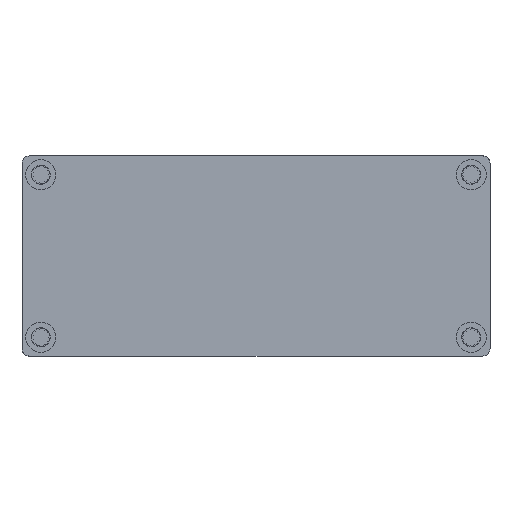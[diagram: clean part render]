
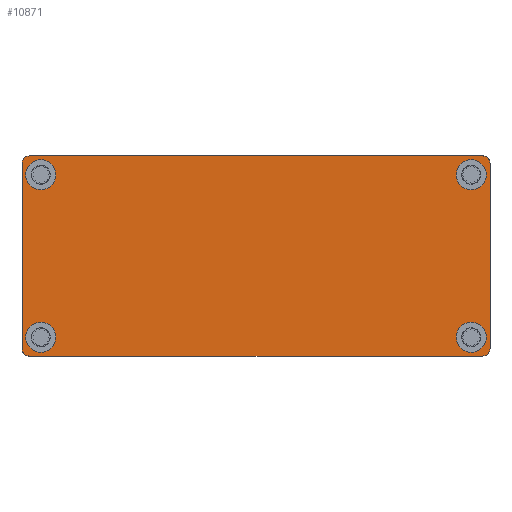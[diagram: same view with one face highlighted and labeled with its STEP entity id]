
A CAD part, front view. The second image highlights one B-rep face of the part: STEP entity #10871.
In plain terms, the highlighted planar face has unit normal (0, -1, 0).
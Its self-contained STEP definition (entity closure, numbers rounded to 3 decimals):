
#4 = VERTEX_POINT ( 'NONE', #8375 ) ;
#102 = EDGE_CURVE ( 'NONE', #8661, #5659, #294, .T. ) ;
#115 = VECTOR ( 'NONE', #4936, 1000. ) ;
#129 = DIRECTION ( 'NONE',  ( 0., -1., 0. ) ) ;
#171 = CIRCLE ( 'NONE', #4113, 1. ) ;
#259 = EDGE_CURVE ( 'NONE', #9057, #5899, #9853, .T. ) ;
#260 = ORIENTED_EDGE ( 'NONE', *, *, #5723, .T. ) ;
#294 = CIRCLE ( 'NONE', #905, 2. ) ;
#307 = VERTEX_POINT ( 'NONE', #1121 ) ;
#312 = DIRECTION ( 'NONE',  ( 0., -1., 0. ) ) ;
#365 = VERTEX_POINT ( 'NONE', #2411 ) ;
#400 = ORIENTED_EDGE ( 'NONE', *, *, #8486, .F. ) ;
#604 = EDGE_CURVE ( 'NONE', #365, #2723, #10804, .T. ) ;
#629 = AXIS2_PLACEMENT_3D ( 'NONE', #4503, #1455, #5400 ) ;
#735 = DIRECTION ( 'NONE',  ( 0., -1., 0. ) ) ;
#745 = ORIENTED_EDGE ( 'NONE', *, *, #8814, .F. ) ;
#838 = EDGE_LOOP ( 'NONE', ( #9703, #11425, #10107, #260, #745, #3363, #3365, #11424 ) ) ;
#905 = AXIS2_PLACEMENT_3D ( 'NONE', #9598, #735, #6353 ) ;
#937 = EDGE_CURVE ( 'NONE', #8780, #5899, #1546, .T. ) ;
#992 = CARTESIAN_POINT ( 'NONE',  ( 31.1, 0., -13.3 ) ) ;
#1007 = VERTEX_POINT ( 'NONE', #4069 ) ;
#1011 = DIRECTION ( 'NONE',  ( 0., 0., 1. ) ) ;
#1043 = CIRCLE ( 'NONE', #629, 1. ) ;
#1121 = CARTESIAN_POINT ( 'NONE',  ( -30.1, 0., 13.3 ) ) ;
#1238 = DIRECTION ( 'NONE',  ( 0., -1., 0. ) ) ;
#1353 = VECTOR ( 'NONE', #5475, 1000. ) ;
#1455 = DIRECTION ( 'NONE',  ( 0., -1., 0. ) ) ;
#1479 = AXIS2_PLACEMENT_3D ( 'NONE', #12509, #1891, #5824 ) ;
#1503 = VECTOR ( 'NONE', #11880, 1000. ) ;
#1546 = CIRCLE ( 'NONE', #6486, 1. ) ;
#1669 = CIRCLE ( 'NONE', #5182, 2. ) ;
#1760 = FACE_BOUND ( 'NONE', #8485, .T. ) ;
#1891 = DIRECTION ( 'NONE',  ( 0., 1., 0. ) ) ;
#2005 = CARTESIAN_POINT ( 'NONE',  ( -28.6, 0., -12.8 ) ) ;
#2070 = DIRECTION ( 'NONE',  ( 0., 0., -1. ) ) ;
#2159 = VERTEX_POINT ( 'NONE', #12362 ) ;
#2160 = AXIS2_PLACEMENT_3D ( 'NONE', #7360, #1238, #7234 ) ;
#2221 = ORIENTED_EDGE ( 'NONE', *, *, #102, .F. ) ;
#2235 = EDGE_CURVE ( 'NONE', #1007, #2159, #1669, .T. ) ;
#2259 = CARTESIAN_POINT ( 'NONE',  ( -28.6, 0., 10.8 ) ) ;
#2405 = CARTESIAN_POINT ( 'NONE',  ( -28.6, 0., -10.8 ) ) ;
#2411 = CARTESIAN_POINT ( 'NONE',  ( 28.6, 0., 12.8 ) ) ;
#2478 = EDGE_CURVE ( 'NONE', #12095, #4, #10885, .T. ) ;
#2672 = DIRECTION ( 'NONE',  ( 0., -1., 0. ) ) ;
#2723 = VERTEX_POINT ( 'NONE', #12778 ) ;
#3001 = CIRCLE ( 'NONE', #5463, 2. ) ;
#3028 = CARTESIAN_POINT ( 'NONE',  ( 30.1, 0., 13.3 ) ) ;
#3031 = CARTESIAN_POINT ( 'NONE',  ( -31.1, 0., -13.3 ) ) ;
#3048 = CARTESIAN_POINT ( 'NONE',  ( -31.1, 0., -13.3 ) ) ;
#3273 = DIRECTION ( 'NONE',  ( 0., 0., 1. ) ) ;
#3300 = DIRECTION ( 'NONE',  ( 0., 0., -1. ) ) ;
#3363 = ORIENTED_EDGE ( 'NONE', *, *, #11886, .T. ) ;
#3365 = ORIENTED_EDGE ( 'NONE', *, *, #3709, .F. ) ;
#3366 = ORIENTED_EDGE ( 'NONE', *, *, #604, .F. ) ;
#3690 = CARTESIAN_POINT ( 'NONE',  ( 31.1, 0., -12.3 ) ) ;
#3709 = EDGE_CURVE ( 'NONE', #6229, #3788, #6005, .T. ) ;
#3788 = VERTEX_POINT ( 'NONE', #6135 ) ;
#3805 = EDGE_CURVE ( 'NONE', #2723, #365, #3001, .T. ) ;
#4069 = CARTESIAN_POINT ( 'NONE',  ( 28.6, 0., -8.8 ) ) ;
#4113 = AXIS2_PLACEMENT_3D ( 'NONE', #9140, #9206, #3273 ) ;
#4208 = DIRECTION ( 'NONE',  ( 0., 0., 1. ) ) ;
#4384 = DIRECTION ( 'NONE',  ( 0., -1., 0. ) ) ;
#4451 = CARTESIAN_POINT ( 'NONE',  ( 30.1, 0., -13.3 ) ) ;
#4503 = CARTESIAN_POINT ( 'NONE',  ( -30.1, 0., -12.3 ) ) ;
#4613 = FACE_BOUND ( 'NONE', #7514, .T. ) ;
#4741 = FACE_OUTER_BOUND ( 'NONE', #838, .T. ) ;
#4936 = DIRECTION ( 'NONE',  ( 0., 0., -1. ) ) ;
#5002 = EDGE_CURVE ( 'NONE', #4, #12095, #10194, .T. ) ;
#5182 = AXIS2_PLACEMENT_3D ( 'NONE', #7624, #10725, #6642 ) ;
#5221 = DIRECTION ( 'NONE',  ( 0., -1., 0. ) ) ;
#5352 = EDGE_CURVE ( 'NONE', #2159, #1007, #12689, .T. ) ;
#5400 = DIRECTION ( 'NONE',  ( 0., 0., 1. ) ) ;
#5463 = AXIS2_PLACEMENT_3D ( 'NONE', #11108, #129, #11961 ) ;
#5475 = DIRECTION ( 'NONE',  ( 1., 0., 0. ) ) ;
#5659 = VERTEX_POINT ( 'NONE', #2005 ) ;
#5723 = EDGE_CURVE ( 'NONE', #9057, #5980, #6655, .T. ) ;
#5749 = CARTESIAN_POINT ( 'NONE',  ( -28.6, 0., -8.8 ) ) ;
#5824 = DIRECTION ( 'NONE',  ( 0., 0., 1. ) ) ;
#5854 = LINE ( 'NONE', #3031, #1503 ) ;
#5899 = VERTEX_POINT ( 'NONE', #3690 ) ;
#5980 = VERTEX_POINT ( 'NONE', #3028 ) ;
#6005 = LINE ( 'NONE', #3048, #9913 ) ;
#6057 = ORIENTED_EDGE ( 'NONE', *, *, #2235, .F. ) ;
#6135 = CARTESIAN_POINT ( 'NONE',  ( -31.1, 0., 12.3 ) ) ;
#6229 = VERTEX_POINT ( 'NONE', #10055 ) ;
#6309 = DIRECTION ( 'NONE',  ( 0., 0., 1. ) ) ;
#6353 = DIRECTION ( 'NONE',  ( 0., 0., -1. ) ) ;
#6441 = EDGE_LOOP ( 'NONE', ( #7111, #6057 ) ) ;
#6486 = AXIS2_PLACEMENT_3D ( 'NONE', #9870, #9740, #1011 ) ;
#6642 = DIRECTION ( 'NONE',  ( 0., 0., -1. ) ) ;
#6655 = CIRCLE ( 'NONE', #10585, 1. ) ;
#7111 = ORIENTED_EDGE ( 'NONE', *, *, #5352, .F. ) ;
#7234 = DIRECTION ( 'NONE',  ( 0., 0., -1. ) ) ;
#7272 = EDGE_CURVE ( 'NONE', #8780, #9320, #5854, .T. ) ;
#7360 = CARTESIAN_POINT ( 'NONE',  ( 28.6, 0., -10.8 ) ) ;
#7410 = CARTESIAN_POINT ( 'NONE',  ( -31.1, 0., 13.3 ) ) ;
#7514 = EDGE_LOOP ( 'NONE', ( #12366, #3366 ) ) ;
#7542 = LINE ( 'NONE', #7410, #1353 ) ;
#7550 = CARTESIAN_POINT ( 'NONE',  ( -28.6, 0., 8.8 ) ) ;
#7624 = CARTESIAN_POINT ( 'NONE',  ( 28.6, 0., -10.8 ) ) ;
#7746 = CIRCLE ( 'NONE', #12716, 2. ) ;
#8188 = CARTESIAN_POINT ( 'NONE',  ( 31.1, 0., 12.3 ) ) ;
#8283 = DIRECTION ( 'NONE',  ( 0., 0., -1. ) ) ;
#8375 = CARTESIAN_POINT ( 'NONE',  ( -28.6, 0., 12.8 ) ) ;
#8481 = DIRECTION ( 'NONE',  ( 0., -1., 0. ) ) ;
#8485 = EDGE_LOOP ( 'NONE', ( #400, #2221 ) ) ;
#8486 = EDGE_CURVE ( 'NONE', #5659, #8661, #7746, .T. ) ;
#8559 = FACE_BOUND ( 'NONE', #11035, .T. ) ;
#8620 = PLANE ( 'NONE',  #1479 ) ;
#8661 = VERTEX_POINT ( 'NONE', #5749 ) ;
#8746 = AXIS2_PLACEMENT_3D ( 'NONE', #12502, #2672, #9707 ) ;
#8780 = VERTEX_POINT ( 'NONE', #4451 ) ;
#8814 = EDGE_CURVE ( 'NONE', #307, #5980, #7542, .T. ) ;
#8919 = ORIENTED_EDGE ( 'NONE', *, *, #5002, .F. ) ;
#9057 = VERTEX_POINT ( 'NONE', #8188 ) ;
#9140 = CARTESIAN_POINT ( 'NONE',  ( -30.1, 0., 12.3 ) ) ;
#9206 = DIRECTION ( 'NONE',  ( 0., -1., 0. ) ) ;
#9294 = CARTESIAN_POINT ( 'NONE',  ( 30.1, 0., 12.3 ) ) ;
#9320 = VERTEX_POINT ( 'NONE', #12035 ) ;
#9598 = CARTESIAN_POINT ( 'NONE',  ( -28.6, 0., -10.8 ) ) ;
#9703 = ORIENTED_EDGE ( 'NONE', *, *, #7272, .F. ) ;
#9707 = DIRECTION ( 'NONE',  ( 0., 0., -1. ) ) ;
#9740 = DIRECTION ( 'NONE',  ( 0., -1., 0. ) ) ;
#9853 = LINE ( 'NONE', #992, #115 ) ;
#9870 = CARTESIAN_POINT ( 'NONE',  ( 30.1, 0., -12.3 ) ) ;
#9913 = VECTOR ( 'NONE', #4208, 1000. ) ;
#10055 = CARTESIAN_POINT ( 'NONE',  ( -31.1, 0., -12.3 ) ) ;
#10107 = ORIENTED_EDGE ( 'NONE', *, *, #259, .F. ) ;
#10194 = CIRCLE ( 'NONE', #8746, 2. ) ;
#10585 = AXIS2_PLACEMENT_3D ( 'NONE', #9294, #312, #6309 ) ;
#10725 = DIRECTION ( 'NONE',  ( 0., -1., 0. ) ) ;
#10743 = FACE_BOUND ( 'NONE', #6441, .T. ) ;
#10804 = CIRCLE ( 'NONE', #11839, 2. ) ;
#10871 = ADVANCED_FACE ( 'NONE', ( #1760, #10743, #4613, #8559, #4741 ), #8620, .F. ) ;
#10885 = CIRCLE ( 'NONE', #11288, 2. ) ;
#11035 = EDGE_LOOP ( 'NONE', ( #11862, #8919 ) ) ;
#11108 = CARTESIAN_POINT ( 'NONE',  ( 28.6, 0., 10.8 ) ) ;
#11288 = AXIS2_PLACEMENT_3D ( 'NONE', #2259, #5221, #2070 ) ;
#11424 = ORIENTED_EDGE ( 'NONE', *, *, #11622, .T. ) ;
#11425 = ORIENTED_EDGE ( 'NONE', *, *, #937, .T. ) ;
#11622 = EDGE_CURVE ( 'NONE', #6229, #9320, #1043, .T. ) ;
#11839 = AXIS2_PLACEMENT_3D ( 'NONE', #12271, #4384, #3300 ) ;
#11862 = ORIENTED_EDGE ( 'NONE', *, *, #2478, .F. ) ;
#11880 = DIRECTION ( 'NONE',  ( -1., 0., 0. ) ) ;
#11886 = EDGE_CURVE ( 'NONE', #307, #3788, #171, .T. ) ;
#11961 = DIRECTION ( 'NONE',  ( 0., 0., -1. ) ) ;
#12035 = CARTESIAN_POINT ( 'NONE',  ( -30.1, 0., -13.3 ) ) ;
#12095 = VERTEX_POINT ( 'NONE', #7550 ) ;
#12271 = CARTESIAN_POINT ( 'NONE',  ( 28.6, 0., 10.8 ) ) ;
#12362 = CARTESIAN_POINT ( 'NONE',  ( 28.6, 0., -12.8 ) ) ;
#12366 = ORIENTED_EDGE ( 'NONE', *, *, #3805, .F. ) ;
#12502 = CARTESIAN_POINT ( 'NONE',  ( -28.6, 0., 10.8 ) ) ;
#12509 = CARTESIAN_POINT ( 'NONE',  ( 0., 0., 0. ) ) ;
#12689 = CIRCLE ( 'NONE', #2160, 2. ) ;
#12716 = AXIS2_PLACEMENT_3D ( 'NONE', #2405, #8481, #8283 ) ;
#12778 = CARTESIAN_POINT ( 'NONE',  ( 28.6, 0., 8.8 ) ) ;
